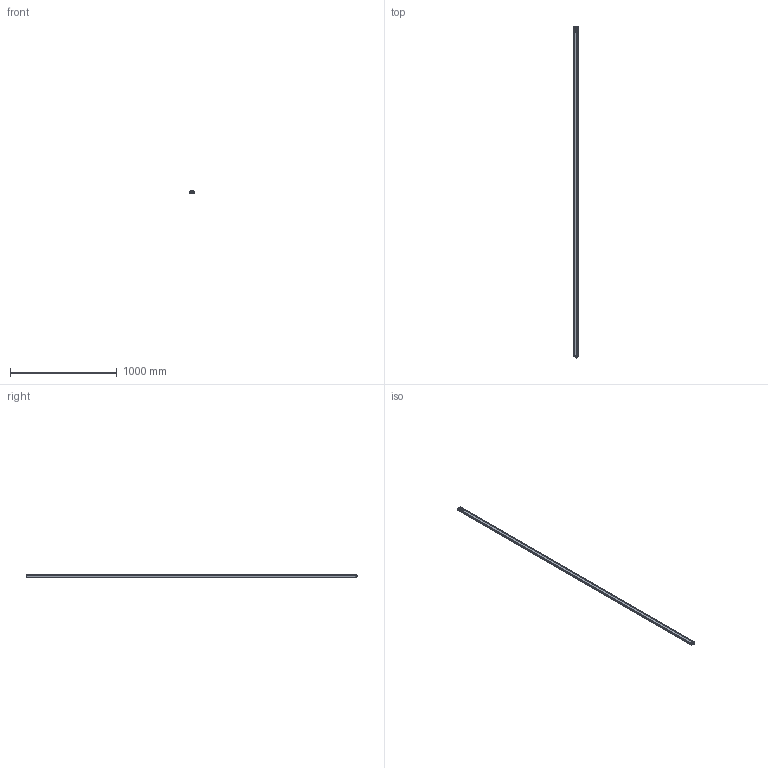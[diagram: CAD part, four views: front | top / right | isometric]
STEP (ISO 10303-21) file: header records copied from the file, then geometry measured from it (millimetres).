
FILE_DESCRIPTION(/* description */ (''),/* implementation_level */ '2;1');
FILE_NAME(/* name */ 'C:\Users\andre\SynologyDrive\Optoscan\Libreria Componenti\00 - Barriere\Polaris sorgente\Barriera Polaris RX\Polaris_3100_RX.stp',/* time_stamp */ '2021-06-04T12:14:59+02:00',/* author */ ('andre'),/* organization */ (''),/* preprocessor_version */ 'ST-DEVELOPER v18',/* originating_system */ 'Autodesk Inventor 2020',/* authorisation */ '');
FILE_SCHEMA (('AUTOMOTIVE_DESIGN { 1 0 10303 214 3 1 1 }'));
Length unit declared in the file: millimetre
Products named in the file (1): Polaris_3100_RX
Bounding box: 40.5 x 3105.3 x 20.75 mm (x, y, z)
Volume: 608922.7 mm3; surface area: 811436.4 mm2
Topology: 1 solids, 1 shells, 684 faces, 1882 edges, 1205 vertices
Faces by surface type: plane 315, cylinder 195, bspline 94, torus 62, sphere 10, cone 8
Full cylindrical faces by diameter (mm): 1 x8, 2.5 x4, 3 x4, 3.5 x4, 5.5 x4, 8 x1, 10.5 x2, 11.75 x9, 15.7 x1, 17.5 x1
Entity records: 27899 total; most frequent: CARTESIAN_POINT 10154, ORIENTED_EDGE 3738, DIRECTION 3331, EDGE_CURVE 1869, VERTEX_POINT 1205, AXIS2_PLACEMENT_3D 1155, LINE 1021, VECTOR 1021
